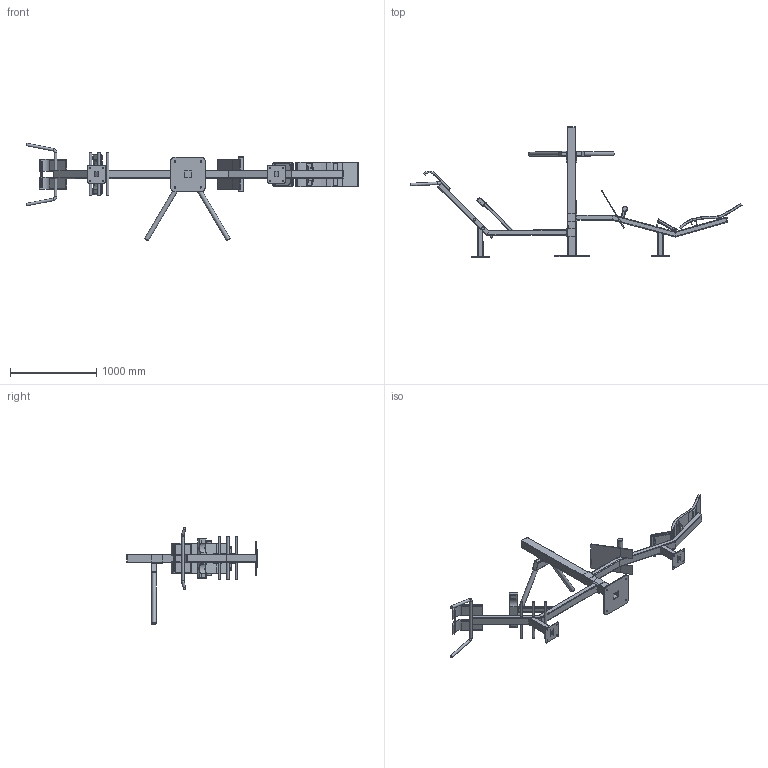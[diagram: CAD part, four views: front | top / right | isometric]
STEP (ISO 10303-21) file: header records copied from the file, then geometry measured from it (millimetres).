
FILE_DESCRIPTION(/* description */ (''),/* implementation_level */ '2;1');
FILE_NAME(/* name */ 'OGC7_3D_Low.step',/* time_stamp */ '2025-11-11T16:09:10+02:00',/* author */ (''),/* organization */ (''),/* preprocessor_version */ 'ST-DEVELOPER v20.1',/* originating_system */ 'Autodesk Translation Framework v14.21.0.0',/* authorisation */ '');
FILE_SCHEMA (('AUTOMOTIVE_DESIGN { 1 0 10303 214 3 1 1 }'));
Length unit declared in the file: millimetre
Products named in the file (1): OGC7_3D_Low
Bounding box: 3843.16 x 1506.73 x 1129.93 mm (x, y, z)
Volume: 28588972.4 mm3; surface area: 7363484 mm2
Topology: 46 solids, 46 shells, 650 faces, 1584 edges, 1022 vertices
Faces by surface type: plane 321, cylinder 283, torus 26, sphere 16, bspline 4
Full cylindrical faces by diameter (mm): 14 x8, 16 x4, 30 x6, 30.5 x4, 40 x2, 47 x2, 50 x2, 53.1 x1, 56 x2, 60.3 x1
Entity records: 19554 total; most frequent: CARTESIAN_POINT 3625, DIRECTION 3448, ORIENTED_EDGE 3160, EDGE_CURVE 1580, AXIS2_PLACEMENT_3D 1245, VERTEX_POINT 1022, LINE 958, VECTOR 958
